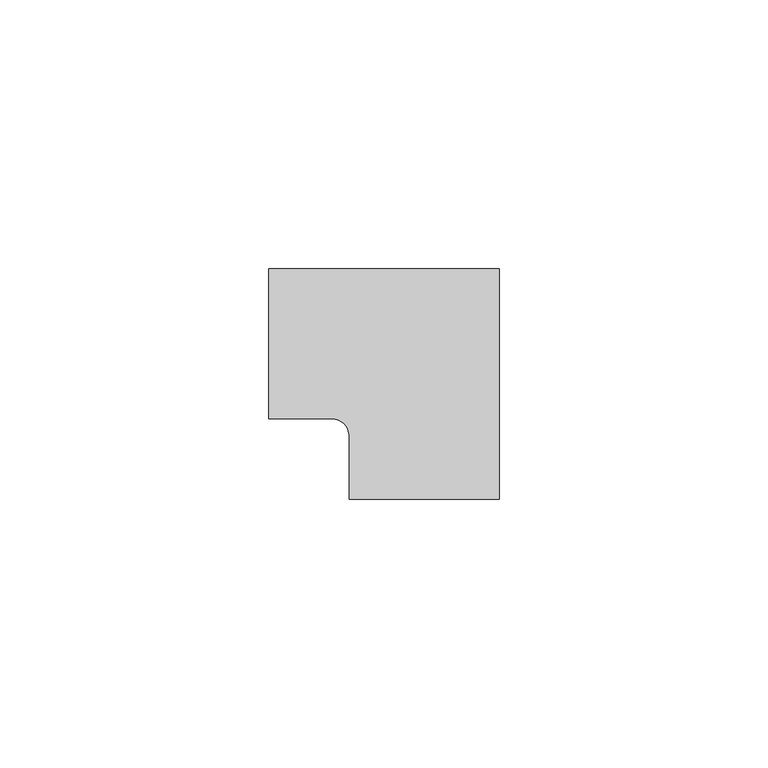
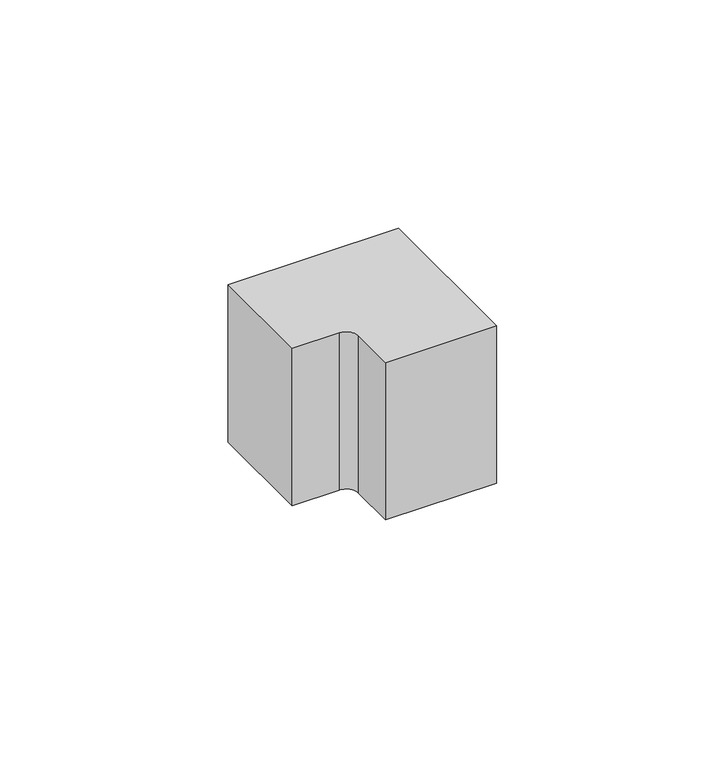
"""IFC4 building model written with IfcOpenShell, lengths in millimetres: proxy geometry, Внутренний_угол_КМВ : Внутренний угол КМВ 40х25."""

from ifc_helpers import new_model, si_unit, point, frame_2d, origin, origin_with_axes, place, context, project, spatial, polyline, circle_curve, trimmed, segment, composite_curve, outline, extrude, source, transform, mapped, element, save


def generic_models_ccd5c1b6(model_context):
    return source(origin(), model_context, "Body", "SweptSolid", [
        extrude(outline(composite_curve([segment(polyline([(-15.0, 0.0), (-15.0, 27.9885299), (28.0, 27.9885299), (28.0, -15.0), (0.0, -15.0), (0.0, -3.184906)]), True, "CONTINUOUS"), segment(trimmed(circle_curve(frame_2d((-3.184906, -3.184906)), 3.184906), [point((0.0, -3.184906))], [point((-3.184906, 0.0))], True, "CARTESIAN"), True, "CONTINUOUS"), segment(polyline([(-3.184906, 0.0), (-15.0, 0.0)]), True, "CONTINUOUS")], self_intersect=False)), origin_with_axes(), (0.0, 0.0, 1.0), 42.0303508),
    ])


if __name__ == "__main__":
    model = new_model("IFC4")
    model_context = context("Model", 3, world=origin())
    ifc_project = project(units=[si_unit("LENGTHUNIT", "METRE", prefix="MILLI")], contexts=[model_context])
    site = spatial("IfcSite", under=ifc_project)
    building = spatial("IfcBuilding", under=site)
    placement = place(None, origin())
    generic_models_shape = generic_models_ccd5c1b6(model_context)
    element("IfcBuildingElementProxy", 1, Name="Внутренний_угол_КМВ : Внутренний угол КМВ 40х25", ObjectType="Внутренний_угол_КМВ : Внутренний угол КМВ 40х25", at=placement, inside=building, context=model_context, shape_type="MappedRepresentation", body=[
        mapped(generic_models_shape, transform((0.0, 0.0, 0.0), x_axis=(1.0, 0.0, 0.0), y_axis=(0.0, 1.0, 0.0), z_axis=(0.0, 0.0, 1.0))),
    ])
    save(model, "model.ifc")
